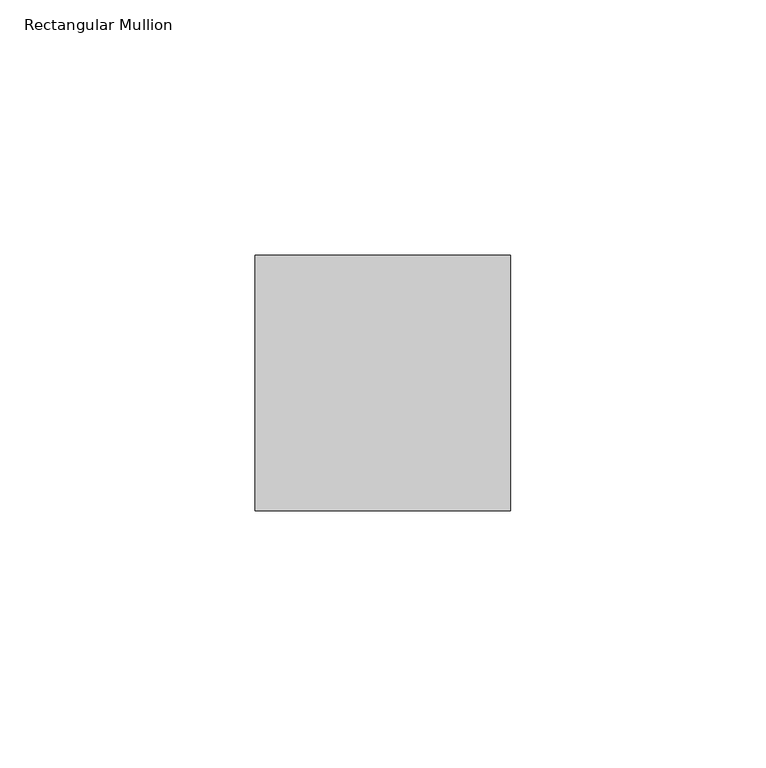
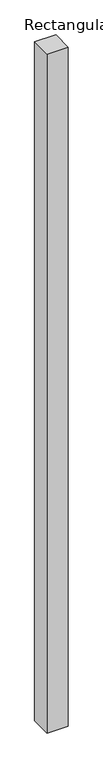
"""IFC4 building model written with IfcOpenShell, lengths in millimetres: member geometry, Rectangular Mullion : Mullion_Curtain Wall_Generic Showcase_50x50mm."""

from ifc_helpers import new_model, si_unit, frame, origin, place, context, project, spatial, polyline, outline, extrude, source, transform, mapped, element, save


def rectangular_mullion_a3a34f99(model_context):
    return source(origin(), model_context, "Body", "SweptSolid", [
        extrude(outline(polyline([(0.0, 50.0), (0.0, 0.0), (-50.0, 0.0), (-50.0, 50.0), (0.0, 50.0)])), frame((0.0, 0.0, -1694.45347), z_axis=(0.0, 0.0, 1.0), x_axis=(1.0, 0.0, 0.0)), (0.0, 0.0, 1.0), 1694.45347),
    ])


if __name__ == "__main__":
    model = new_model("IFC4")
    model_context = context("Model", 3, world=origin())
    ifc_project = project(units=[si_unit("LENGTHUNIT", "METRE", prefix="MILLI")], contexts=[model_context])
    site = spatial("IfcSite", under=ifc_project)
    building = spatial("IfcBuilding", under=site)
    placement = place(None, origin())
    rectangular_mullion_shape = rectangular_mullion_a3a34f99(model_context)
    element("IfcMember", 1, ObjectType="Rectangular Mullion : Mullion_Curtain Wall_Generic Showcase_50x50mm", at=placement, inside=building, context=model_context, shape_type="MappedRepresentation", body=[
        mapped(rectangular_mullion_shape, transform((0.0, 0.0, 0.0), x_axis=(1.0, 0.0, 0.0), y_axis=(0.0, 1.0, 0.0), z_axis=(0.0, 0.0, 1.0))),
    ])
    save(model, "model.ifc")
